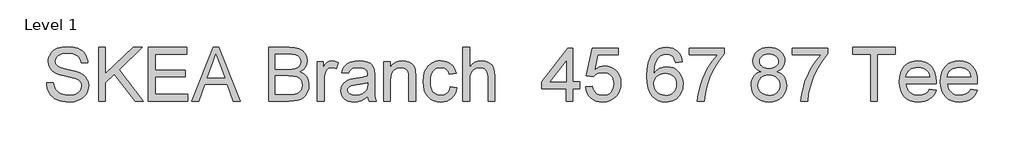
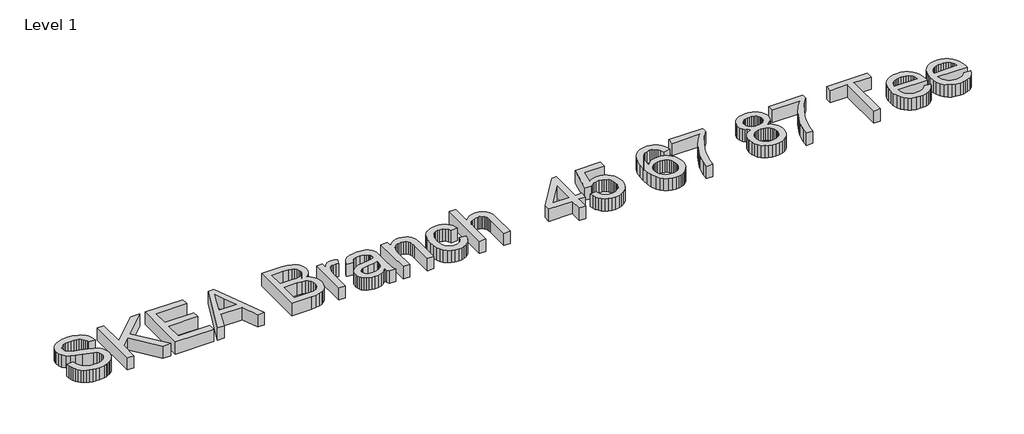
# One storey, part 12 of 29: 1 proxy.
"""IFC4 building model written with IfcOpenShell, lengths in millimetres."""

import ifcopenshell
import ifcopenshell.guid

model = None  # the IFC model being written
_history = None  # IfcOwnerHistory: only IFC2X3 demands one
_inside = {}  # id of a spatial element -> (the spatial element, [elements in it])
_under = {}  # id of a project, library or spatial element -> (it, [spatial elements below it])
_declared = {}  # id of a project -> (the project, [libraries it declares])
_typed = {}  # id of a type object -> (the type object, [elements of that type])
_made_of = {}  # id of a material, layer set ... -> (it, [elements and type objects made of it])


def new_model(schema):
    """Start an empty IFC model of exactly this schema.

    Asked for "IFC4X3", IfcOpenShell would pick the latest addendum, in which some entities
    have other attributes; the version numbers below select the first issue.
    IFC2X3 requires an IfcOwnerHistory on every rooted entity: one is made here for all.
    """
    global model, _history
    if schema == "IFC4X3":
        model = ifcopenshell.file(schema_version=(4, 3, 0, 0))
    else:
        model = ifcopenshell.file(schema=schema)
    _inside.clear()
    _under.clear()
    _declared.clear()
    _typed.clear()
    _made_of.clear()
    _history = None
    if model.schema == "IFC2X3":
        org = make("IfcOrganization", Name="unknown")
        user = make(
            "IfcPersonAndOrganization",
            ThePerson=make("IfcPerson", FamilyName="unknown"),
            TheOrganization=org,
        )
        app = make(
            "IfcApplication",
            ApplicationDeveloper=org,
            Version="unknown",
            ApplicationFullName="unknown",
            ApplicationIdentifier="unknown",
        )
        _history = make(
            "IfcOwnerHistory",
            OwningUser=user,
            OwningApplication=app,
            ChangeAction="ADDED",
            CreationDate=0,
        )
    return model


def make(cls, **values):
    """One entity of the class cls with the attributes given. An attribute that is None is left unset."""
    return model.create_entity(
        cls, **{name: value for name, value in values.items() if value is not None}
    )


def rooted(cls, **values):
    """An entity with a GlobalId (a new one), such as an element, a storey or a relation."""
    return make(cls, GlobalId=ifcopenshell.guid.new(), OwnerHistory=_history, **values)


def si_unit(unit_type, name, prefix=None):
    """IfcSIUnit, for example si_unit("LENGTHUNIT", "METRE", prefix="MILLI")."""
    return make("IfcSIUnit", UnitType=unit_type, Prefix=prefix, Name=name)


def assignment(units):
    """IfcUnitAssignment: the units of a project."""
    return None if units is None else make("IfcUnitAssignment", Units=units)


def point(xyz):
    """IfcCartesianPoint."""
    return None if xyz is None else make("IfcCartesianPoint", Coordinates=xyz)


def direction(xyz):
    """IfcDirection."""
    return None if xyz is None else make("IfcDirection", DirectionRatios=xyz)


def frame(location, z_axis=None, x_axis=None):
    """IfcAxis2Placement3D, a coordinate frame: its origin and axes. An axis left out is left unset."""
    return make(
        "IfcAxis2Placement3D",
        Location=point(location),
        Axis=direction(z_axis),
        RefDirection=direction(x_axis),
    )


def origin():
    """The frame at (0, 0, 0) with its axes left unset."""
    return frame((0.0, 0.0, 0.0))


def origin_with_axes():
    """The frame at (0, 0, 0) with the z axis (0, 0, 1) and the x axis (1, 0, 0) written out."""
    return frame((0.0, 0.0, 0.0), z_axis=(0.0, 0.0, 1.0), x_axis=(1.0, 0.0, 0.0))


def place(relative_to, where):
    """IfcLocalPlacement: puts the frame where relative to a parent placement (None: the world)."""
    return make(
        "IfcLocalPlacement", PlacementRelTo=relative_to, RelativePlacement=where
    )


def context(
    kind, dimensions, precision=None, world=None, true_north=None, identifier=None
):
    """IfcGeometricRepresentationContext, for example the 3D "Model" context."""
    return make(
        "IfcGeometricRepresentationContext",
        ContextIdentifier=identifier,
        ContextType=kind,
        CoordinateSpaceDimension=dimensions,
        Precision=precision,
        WorldCoordinateSystem=world,
        TrueNorth=true_north,
    )


def project(units=None, contexts=None):
    """IfcProject with its units and contexts."""
    return rooted(
        "IfcProject",
        Name="project",
        RepresentationContexts=contexts,
        UnitsInContext=assignment(units),
    )


def spatial(cls, under=None, at=None, **own):
    """A site, building, storey or space (cls), placed at a placement, below another one or the project."""
    s = rooted(cls, ObjectPlacement=at, **own)
    if under is not None:
        _under.setdefault(under.id(), (under, []))[1].append(s)
    return s


def polyline(points):
    """IfcPolyline through the points."""
    return make("IfcPolyline", Points=[point(p) for p in points])


def outline(outer, holes=None, kind="AREA"):
    """IfcArbitraryClosedProfileDef: a profile drawn as a closed curve; with holes, ...WithVoids."""
    if holes is None:
        return make("IfcArbitraryClosedProfileDef", ProfileType=kind, OuterCurve=outer)
    return make(
        "IfcArbitraryProfileDefWithVoids",
        ProfileType=kind,
        OuterCurve=outer,
        InnerCurves=holes,
    )


def extrude(swept, where, along, depth):
    """IfcExtrudedAreaSolid: the profile swept, set in the frame where, extruded along a direction by depth."""
    return make(
        "IfcExtrudedAreaSolid",
        SweptArea=swept,
        Position=where,
        ExtrudedDirection=direction(along),
        Depth=depth,
    )


def shape(context_of_items, identifier, shape_type, items):
    """IfcShapeRepresentation: the items that make up one representation, for example the "Body"."""
    return make(
        "IfcShapeRepresentation",
        ContextOfItems=context_of_items,
        RepresentationIdentifier=identifier,
        RepresentationType=shape_type,
        Items=items,
    )


def made_of(thing, what):
    """Note that an element or type object is made of a material, layer set ...; save() writes the relation."""
    if what is not None:
        _made_of.setdefault(what.id(), (what, []))[1].append(thing)
    return thing


def element(
    cls,
    number,
    at=None,
    inside=None,
    cuts=None,
    type_object=None,
    material=None,
    context=None,
    identifier="Body",
    shape_type=None,
    held_by="IfcProductDefinitionShape",
    body=None,
    shapes=None,
    **own,
):
    """One element of the class cls, such as IfcWall. Its Tag is "e" and its number.

    at: its placement. inside: the storey or other place that contains it. cuts: it is an
    opening in that element (IfcRelVoidsElement). A single representation is given by context,
    identifier, shape_type and body (its items); several are given by shapes. held_by: the class
    of the entity that holds the representations. save() writes the other relations.
    """
    e = rooted(cls, Tag="e%d" % number, ObjectPlacement=at, **own)
    if body is not None:
        shapes = [shape(context, identifier, shape_type, body)]
    if shapes is not None:
        e.Representation = make(held_by, Representations=shapes)
    if inside is not None:
        _inside.setdefault(inside.id(), (inside, []))[1].append(e)
    if cuts is not None:
        rooted(
            "IfcRelVoidsElement", RelatingBuildingElement=cuts, RelatedOpeningElement=e
        )
    if type_object is not None:
        _typed.setdefault(type_object.id(), (type_object, []))[1].append(e)
    return made_of(e, material)


def aggregate(whole, parts):
    """IfcRelAggregates: a whole, such as a stair, and the parts it consists of."""
    return rooted("IfcRelAggregates", RelatingObject=whole, RelatedObjects=parts)


def save(model, path):
    """Write the relations noted so far, then the file.

    IfcRelAggregates (storeys below a building ...), IfcRelContainedInSpatialStructure (elements
    in a storey), IfcRelDefinesByType, IfcRelAssociatesMaterial and IfcRelDeclares: one each for
    every whole, place, type object, material and project.
    """
    for whole, parts in _under.values():
        aggregate(whole, parts)
    for where, things in _inside.values():
        rooted(
            "IfcRelContainedInSpatialStructure",
            RelatedElements=things,
            RelatingStructure=where,
        )
    for kind, things in _typed.values():
        rooted("IfcRelDefinesByType", RelatedObjects=things, RelatingType=kind)
    for what, things in _made_of.values():
        rooted("IfcRelAssociatesMaterial", RelatedObjects=things, RelatingMaterial=what)
    for by, libraries in _declared.values():
        rooted("IfcRelDeclares", RelatingContext=by, RelatedDefinitions=libraries)
    model.write(path)


model = new_model("IFC4")

# Units and contexts
model_context = context("Model", 3, world=origin())
ifc_project = project(units=[si_unit("LENGTHUNIT", "METRE", prefix="MILLI")], contexts=[model_context])

# Site, building, storey
site = spatial("IfcSite", under=ifc_project)
building = spatial("IfcBuilding", under=site)
storey = spatial("IfcBuildingStorey", under=building, Name="Level 1", Elevation=0.0)

# Proxy
placement = place(None, origin())
element("IfcBuildingElementProxy", 1, Name="600mm Arial", ObjectType="600mm Arial", at=placement, inside=storey, context=model_context, shape_type="SweptSolid", body=[
    extrude(outline(polyline([(-4346.9599031, -9856.1960162), (-4271.6176705, -9856.1960162), (-4262.9724436, -9898.0058049), (-4247.3374588, -9931.6118252), (-4222.9468826, -9958.2832698), (-4188.0348812, -9979.2893318), (-4145.3605698, -9992.9193597), (-4097.6830632, -9997.4627023), (-4055.7077276, -9994.0230057), (-4018.9563162, -9983.7039157), (-3989.1762687, -9967.3699551), (-3968.1150245, -9945.8856466), (-3955.5886426, -9921.2191588), (-3951.4131819, -9895.3386605), (-3954.5401789, -9870.1203497), (-3963.9211698, -9848.3233415), (-3982.9774571, -9829.7269066), (-4015.1303435, -9814.1103159), (-4124.8327544, -9785.3419439), (-4196.845655, -9766.3040507), (-4242.9228749, -9748.1858624), (-4280.4284443, -9722.8387929), (-4307.0079185, -9692.1206463), (-4322.8452384, -9656.6936102), (-4328.124345, -9617.2198721), (-4326.4918686, -9594.7836689), (-4321.5944396, -9573.0924268), (-4313.4320578, -9552.1461457), (-4302.0047233, -9531.9448256), (-4287.4411948, -9513.3116026), (-4269.870231, -9497.0696125), (-4249.2918319, -9483.2188554), (-4225.7059975, -9471.7593312), (-4172.694202, -9456.3634697), (-4114.0170238, -9451.2315159), (-4050.447015, -9456.602593), (-3994.8232574, -9472.7158244), (-3970.4878634, -9484.7179745), (-3949.1323136, -9499.2401163), (-3930.7566079, -9516.2822497), (-3915.3607464, -9535.8443748), (-3903.0642907, -9557.3562744), (-3893.9868025, -9580.2477316), (-3888.1282817, -9604.5187462), (-3885.4887284, -9630.1693183), (-3960.830961, -9630.1693183), (-3965.8709443, -9606.12823), (-3974.663324, -9585.2141385), (-3987.2081001, -9567.4270441), (-4003.5052724, -9552.7669466), (-4023.8583438, -9541.3074224), (-4048.5708168, -9533.122048), (-4077.6426915, -9528.2108234), (-4111.0739678, -9526.5737485), (-4145.5721019, -9528.1924293), (-4175.0486468, -9533.0484716), (-4199.5036024, -9541.1418755), (-4218.9369688, -9552.472641), (-4233.7442191, -9566.0934718), (-4244.3208265, -9581.057072), (-4250.6667909, -9597.3634414), (-4252.7821124, -9615.0125801), (-4251.2829932, -9630.1969095), (-4246.7856358, -9643.9648932), (-4239.2900402, -9656.3165312), (-4228.7962063, -9667.2518235), (-4212.2783047, -9677.6077016), (-4186.2690476, -9688.0739444), (-4105.7764671, -9709.3375237), (-4022.7087126, -9729.5342452), (-3972.456032, -9747.1557928), (-3929.5058091, -9774.4894251), (-3912.9005356, -9790.5566712), (-3899.5418206, -9808.224204), (-3889.2733144, -9827.400053), (-3881.9386671, -9847.9922477), (-3876.0709493, -9893.4256741), (-3877.758608, -9916.9931144), (-3882.8215839, -9939.870776), (-3891.2598772, -9962.0586588), (-3903.0734878, -9983.5567629), (-3918.055482, -10003.5327552), (-3935.9989263, -10021.1543028), (-3956.9038207, -10036.4214056), (-3980.7701651, -10049.3340636), (-4006.9035824, -10059.6025698), (-4034.6096951, -10066.9372171), (-4094.7400072, -10072.8049349), (-4133.2802448, -10071.2230424), (-4168.5555296, -10066.4773646), (-4200.5658617, -10058.5679017), (-4229.3112411, -10047.4946537), (-4254.9664117, -10033.2392264), (-4277.7061175, -10015.7832257), (-4297.5303586, -9995.1266517), (-4314.4391348, -9971.2695043), (-4328.0599656, -9944.9843357), (-4338.0203707, -9917.0436982), (-4344.3203498, -9887.4475917), (-4346.9599031, -9856.1960162)])), origin_with_axes(), (0.0, 0.0, 1.0), 150.0),
    extrude(outline(polyline([(-3763.0576004, -10063.3871559), (-3763.0576004, -9460.649295), (-3687.7153678, -9460.649295), (-3687.7153678, -9755.6906551), (-3378.6944918, -9460.649295), (-3273.3330884, -9460.649295), (-3532.7634714, -9708.4546069), (-3263.9153093, -10063.3871559), (-3356.0329609, -10063.3871559), (-3586.1799371, -9759.369475), (-3687.7153678, -9856.1960162), (-3687.7153678, -10063.3871559), (-3763.0576004, -10063.3871559)])), origin_with_axes(), (0.0, 0.0, 1.0), 150.0),
    extrude(outline(polyline([(-3207.4086349, -10063.3871559), (-3207.4086349, -9460.649295), (-2774.1907974, -9460.649295), (-2774.1907974, -9535.9915276), (-3132.0664023, -9535.9915276), (-3132.0664023, -9714.92933), (-2793.0263555, -9714.92933), (-2793.0263555, -9790.2715626), (-3132.0664023, -9790.2715626), (-3132.0664023, -9988.0449233), (-2764.7730183, -9988.0449233), (-2764.7730183, -10063.3871559), (-3207.4086349, -10063.3871559)])), origin_with_axes(), (0.0, 0.0, 1.0), 150.0),
    extrude(outline(polyline([(-2721.951554, -10063.3871559), (-2481.3567292, -9460.649295), (-2417.1981092, -9460.649295), (-2176.6032844, -10063.3871559), (-2256.2129481, -10063.3871559), (-2325.2276104, -9875.0315743), (-2573.4743808, -9875.0315743), (-2642.3418903, -10063.3871559), (-2721.951554, -10063.3871559)]), holes=[polyline([(-2545.8096548, -9799.6893417), (-2352.7451837, -9799.6893417), (-2407.0445662, -9651.5064741), (-2449.2774192, -9535.9915276), (-2486.8013827, -9638.5570278), (-2545.8096548, -9799.6893417)])]), origin_with_axes(), (0.0, 0.0, 1.0), 150.0),
    extrude(outline(polyline([(-1860.6662269, -10063.3871559), (-1860.6662269, -9460.649295), (-1630.6664035, -9460.649295), (-1567.4090945, -9465.082273), (-1518.0209366, -9478.3812071), (-1497.9437767, -9488.4381812), (-1480.1658793, -9500.8771911), (-1464.6872444, -9515.698237), (-1451.5078719, -9532.9013188), (-1433.46326, -9570.5724351), (-1427.4483894, -9610.009385), (-1432.5067668, -9646.3009438), (-1447.6818991, -9680.4219989), (-1473.0841509, -9710.2756228), (-1508.8238867, -9733.7648882), (-1486.0841809, -9743.4585788), (-1466.1311812, -9756.0585371), (-1448.9648876, -9771.5647632), (-1434.5853001, -9789.977257), (-1423.222345, -9810.7349986), (-1415.1059485, -9833.2769679), (-1410.2361106, -9857.6031648), (-1408.6128313, -9883.7135894), (-1413.0458093, -9925.7441074), (-1426.3447434, -9964.7212048), (-1446.1919771, -9997.8673725), (-1470.2698537, -10022.4051016), (-1499.7555956, -10040.173802), (-1535.8264252, -10053.0128836), (-1579.6595649, -10060.7935878), (-1632.4322371, -10063.3871559), (-1860.6662269, -10063.3871559)]), holes=[polyline([(-1785.3239943, -9705.511551), (-1647.7361281, -9705.511551), (-1599.6171632, -9703.8928702), (-1567.3907004, -9699.0368278), (-1539.2661218, -9687.8716093), (-1519.0510062, -9671.1513726), (-1506.8557181, -9649.1336352), (-1502.790622, -9622.0759144), (-1506.5798066, -9595.80914), (-1517.9473602, -9572.9268799), (-1536.3782482, -9555.066209), (-1561.3574357, -9543.8642023), (-1599.6907396, -9537.9596963), (-1658.1839768, -9535.9915276), (-1785.3239943, -9535.9915276), (-1785.3239943, -9705.511551)]), polyline([(-1785.3239943, -9988.0449233), (-1630.8135563, -9988.0449233), (-1574.8954931, -9985.1018673), (-1548.9414183, -9978.5719619), (-1527.5858685, -9968.6943303), (-1510.2218383, -9954.5492676), (-1496.2423225, -9935.2170687), (-1487.0268785, -9911.5622565), (-1483.9550639, -9884.4493534), (-1487.5603074, -9852.9586546), (-1498.3760381, -9825.8825398), (-1517.2667785, -9804.710931), (-1545.0970515, -9790.9337502), (-1584.5156073, -9783.3737752), (-1638.1711963, -9780.8537836), (-1785.3239943, -9780.8537836), (-1785.3239943, -9988.0449233)])]), origin_with_axes(), (0.0, 0.0, 1.0), 150.0),
    extrude(outline(polyline([(-1314.4350405, -10063.3871559), (-1314.4350405, -9620.7515393), (-1248.510587, -9620.7515393), (-1248.510587, -9686.2345344), (-1224.1567989, -9648.2691125), (-1201.7159972, -9625.9018872), (-1179.2016191, -9614.9757919), (-1154.6271018, -9611.3337602), (-1117.1031383, -9617.1462957), (-1078.9905636, -9634.5839023), (-1104.1536921, -9702.1270366), (-1130.6411957, -9690.5387538), (-1157.1286994, -9686.6759928), (-1179.6246834, -9690.391601), (-1199.7294344, -9701.5384254), (-1215.9714245, -9719.2703376), (-1226.8791256, -9742.7412089), (-1236.0393873, -9784.8269091), (-1239.0928079, -9830.7385821), (-1239.0928079, -10063.3871559), (-1314.4350405, -10063.3871559)])), origin_with_axes(), (0.0, 0.0, 1.0), 150.0),
    extrude(outline(polyline([(-749.3682959, -10006.8804814), (-785.3655491, -10037.7457808), (-822.4296601, -10057.9425023), (-861.4067575, -10069.0893268), (-903.1429699, -10072.8049349), (-936.6892093, -10070.5700518), (-966.1059734, -10063.8654025), (-991.393262, -10052.6909869), (-1012.5510753, -10037.046805), (-1029.2575164, -10017.9261383), (-1041.1906886, -9996.3222681), (-1048.3505919, -9972.2351945), (-1050.7372264, -9945.6649174), (-1047.1319828, -9914.431736), (-1036.3162521, -9886.0680342), (-1019.6328037, -9861.7878225), (-998.4244066, -9842.8051116), (-973.5004015, -9828.4577137), (-945.6701285, -9818.0834415), (-880.481439, -9806.752676), (-803.4469492, -9794.8332994), (-749.8097543, -9780.8537836), (-749.3682959, -9764.0783646), (-754.555432, -9730.4539502), (-761.0393522, -9718.0011447), (-770.1168404, -9708.4546069), (-785.8070075, -9698.9264632), (-804.9184772, -9692.1206463), (-853.4053241, -9686.6759928), (-898.2869276, -9690.2996305), (-929.6304735, -9701.1705434), (-951.0044175, -9721.2752944), (-965.9772147, -9752.6004463), (-1041.3194473, -9743.1826673), (-1028.2412423, -9701.9798838), (-1008.7251025, -9669.6062682), (-980.9500119, -9644.84781), (-943.0949546, -9626.4904984), (-896.7970055, -9615.1229447), (-843.6932395, -9611.3337602), (-792.7599772, -9614.6814863), (-752.3849283, -9624.7246648), (-721.9426932, -9639.8262207), (-700.8078725, -9658.3490792), (-686.7915685, -9681.2497334), (-677.7048832, -9709.4846765), (-674.0260633, -9775.40913), (-674.0260633, -9869.1454624), (-670.2000905, -10000.0378763), (-664.5347078, -10032.3930978), (-655.1905051, -10063.3871559), (-730.5327377, -10063.3871559), (-742.5992672, -10037.1939578), (-749.3682959, -10006.8804814)]), holes=[polyline([(-749.3682959, -9856.1960162), (-799.9888584, -9868.7407922), (-870.9165071, -9879.2990055), (-935.7373147, -9891.5126877), (-952.6047041, -9899.863609), (-965.0942979, -9911.3783155), (-972.8198198, -9925.1738903), (-975.3949937, -9940.3674167), (-969.7847933, -9962.7714302), (-952.954192, -9981.1287417), (-925.2710719, -9993.3792122), (-887.1033149, -9997.4627023), (-846.6362954, -9992.9561479), (-810.8781655, -9979.4364846), (-781.8890643, -9959.5156745), (-761.7291309, -9935.8056799), (-752.7895985, -9911.3783155), (-749.8097543, -9877.5331719), (-749.3682959, -9856.1960162)])]), origin_with_axes(), (0.0, 0.0, 1.0), 150.0),
    extrude(outline(polyline([(-570.4304934, -10063.3871559), (-570.4304934, -9620.7515393), (-495.0882608, -9620.7515393), (-495.0882608, -9682.5557145), (-468.9134569, -9651.3961095), (-437.4779404, -9629.1392488), (-400.7817114, -9615.7851323), (-358.8247698, -9611.3337602), (-321.6870824, -9614.9206096), (-287.676392, -9625.681158), (-259.3126901, -9642.272636), (-239.1159686, -9663.3522743), (-225.4123643, -9688.8648907), (-216.5280141, -9718.7553028), (-212.5548885, -9791.5959378), (-212.5548885, -10063.3871559), (-287.8971212, -10063.3871559), (-287.8971212, -9801.7494809), (-290.0676249, -9762.7907776), (-296.5791362, -9735.0892634), (-308.5904834, -9715.2420297), (-327.2604946, -9699.8461682), (-351.1912184, -9689.9685367), (-378.9847032, -9686.6759928), (-401.8623647, -9688.5245998), (-423.1121485, -9694.0704209), (-442.7340544, -9703.313456), (-460.7280825, -9716.2537052), (-475.7606605, -9734.3626964), (-486.4982162, -9759.1119577), (-492.9407497, -9790.5014889), (-495.0882608, -9828.5312901), (-495.0882608, -10063.3871559), (-570.4304934, -10063.3871559)])), origin_with_axes(), (0.0, 0.0, 1.0), 150.0),
    extrude(outline(polyline([(173.5740536, -9903.2849116), (248.9162862, -9912.7026906), (240.7217148, -9948.2538869), (227.9102243, -9979.7123961), (210.4818148, -10007.078218), (188.4364862, -10030.3513527), (162.7031406, -10048.9247949), (134.2106801, -10062.1915394), (102.9591046, -10070.1515861), (68.9484142, -10072.8049349), (26.6925685, -10069.1031224), (-11.1946785, -10057.9976846), (-44.7133268, -10039.4886218), (-73.8633764, -10013.5759337), (-97.4584078, -9980.7470642), (-114.3120017, -9941.4894568), (-124.4241581, -9895.8031115), (-127.7948769, -9843.6880283), (-122.0375236, -9776.6415347), (-114.8408321, -9746.4706126), (-104.765464, -9718.5345736), (-91.7424413, -9693.3944377), (-75.7027863, -9671.6112251), (-56.646499, -9653.1849357), (-34.5735793, -9638.1155694), (-10.4819071, -9626.3985279), (14.6306376, -9618.0292125), (40.7640548, -9613.0076233), (67.9183446, -9611.3337602), (101.3450224, -9613.6330227), (131.5803238, -9620.5308101), (158.624249, -9632.0271224), (182.4767979, -9648.1219597), (202.7333002, -9668.4474399), (218.9890859, -9692.6356811), (231.2441549, -9720.6866833), (239.4985071, -9752.6004463), (164.1562745, -9762.0182254), (150.4894584, -9729.1479691), (129.207485, -9705.5851274), (101.4875766, -9691.4032764), (68.5069558, -9686.6759928), (42.9069674, -9689.0028464), (19.8177737, -9695.9834073), (-0.7606254, -9707.6176754), (-18.8282299, -9723.9056507), (-33.5389112, -9745.2244123), (-44.0465407, -9771.9510393), (-50.3511183, -9804.0855316), (-52.4526442, -9841.6278892), (-50.3971036, -9879.7358653), (-44.2304816, -9912.2428381), (-33.9527784, -9939.1488076), (-19.5639939, -9960.4537736), (-1.8550743, -9976.6451799), (18.3830339, -9988.2104701), (41.1503309, -9995.1496443), (66.4468166, -9997.4627023), (105.4607022, -9991.686955), (122.3326902, -9984.4672708), (137.4480417, -9974.359713), (150.3836923, -9961.253917), (160.7165779, -9945.039518), (168.4466983, -9925.7165162), (173.5740536, -9903.2849116)])), origin_with_axes(), (0.0, 0.0, 1.0), 150.0),
    extrude(outline(polyline([(314.8407397, -10063.3871559), (314.8407397, -9460.649295), (390.1829724, -9460.649295), (390.1829724, -9682.2614089), (417.8568954, -9651.2305626), (448.933727, -9629.0656724), (483.413467, -9615.7667382), (521.2961154, -9611.3337602), (566.8031182, -9616.1714084), (605.9089743, -9630.6843531), (636.7006973, -9653.7321601), (657.2653009, -9684.1743952), (668.8535837, -9726.0025781), (672.7163447, -9783.2082283), (672.7163447, -10063.3871559), (597.374112, -10063.3871559), (597.374112, -9791.0073266), (595.8749929, -9765.5682867), (591.3776355, -9743.8448549), (583.8820399, -9725.8370312), (573.388206, -9711.5448157), (560.1444541, -9700.6647057), (544.3991047, -9692.8931985), (526.1521578, -9688.2302942), (505.4036132, -9686.6759928), (473.5634266, -9690.8698475), (443.6730145, -9703.4514118), (418.9145562, -9723.2066749), (402.470231, -9748.9216264), (393.254787, -9783.0978637), (390.1829724, -9828.2369845), (390.1829724, -10063.3871559), (314.8407397, -10063.3871559)])), origin_with_axes(), (0.0, 0.0, 1.0), 150.0),
    extrude(outline(polyline([(1473.2275662, -10063.3871559), (1473.2275662, -9922.1204697), (1200.1119729, -9922.1204697), (1200.1119729, -9846.7782371), (1492.0631243, -9470.067074), (1548.5697988, -9470.067074), (1548.5697988, -9846.7782371), (1623.9120314, -9846.7782371), (1623.9120314, -9922.1204697), (1548.5697988, -9922.1204697), (1548.5697988, -10063.3871559), (1473.2275662, -10063.3871559)]), holes=[polyline([(1473.2275662, -9846.7782371), (1473.2275662, -9613.9825106), (1292.8182357, -9846.7782371), (1473.2275662, -9846.7782371)])]), origin_with_axes(), (0.0, 0.0, 1.0), 150.0),
    extrude(outline(polyline([(1689.8364849, -9903.2849116), (1765.1787175, -9893.8671325), (1770.8073121, -9918.0875633), (1779.0110805, -9939.0982238), (1789.790023, -9956.8991138), (1803.1441394, -9971.4902335), (1819.0458387, -9982.8531886), (1837.4675296, -9990.9695851), (1858.4092122, -9995.839423), (1881.8708864, -9997.4627023), (1910.565682, -9995.2048266), (1935.8759633, -9988.4311993), (1957.8017302, -9977.1418206), (1976.3429828, -9961.3366904), (1991.0858537, -9941.7975579), (2001.6164758, -9919.3061725), (2007.9348491, -9893.862534), (2010.0409735, -9865.4666425), (2008.0682063, -9838.6296509), (2002.1499047, -9814.7725035), (1992.2860687, -9793.8952003), (1978.4766983, -9775.9977412), (1960.6758083, -9761.6411464), (1938.8374134, -9751.3864358), (1912.9615135, -9745.2336094), (1883.0481088, -9743.1826673), (1846.4990326, -9746.456817), (1816.9029261, -9756.2792663), (1793.2665079, -9771.3256399), (1774.5964966, -9790.2715626), (1699.254264, -9780.8537836), (1765.1787175, -9470.067074), (2057.1298689, -9470.067074), (2057.1298689, -9545.4093067), (1826.0999759, -9545.4093067), (1793.8735132, -9711.3976629), (1820.4621844, -9692.3413755), (1847.694649, -9678.7297417), (1875.5709072, -9670.5627614), (1904.0909589, -9667.8404346), (1940.7825894, -9671.215752), (1974.4851787, -9681.3417039), (2005.1987268, -9698.2182904), (2032.9232336, -9721.8455115), (2055.8744716, -9750.7794305), (2072.268213, -9783.5761103), (2082.1044578, -9820.2355512), (2085.3832061, -9860.7577529), (2082.4309531, -9899.7900326), (2073.5741941, -9936.0999855), (2058.812929, -9969.6876117), (2038.147158, -10000.5529111), (2006.8404002, -10032.1631715), (1970.309718, -10054.741929), (1928.5551116, -10068.2891834), (1881.5765808, -10072.8049349), (1842.6960524, -10069.9032657), (1807.5771175, -10061.198258), (1776.2197759, -10046.6899118), (1748.6240277, -10026.3782271), (1725.6635927, -10001.2748795), (1708.2121906, -9972.3915444), (1696.2698213, -9939.7282217), (1689.8364849, -9903.2849116)])), origin_with_axes(), (0.0, 0.0, 1.0), 150.0),
    extrude(outline(polyline([(2772.8810787, -9620.7515393), (2697.5388461, -9630.1693183), (2685.3987403, -9592.8292958), (2668.9912033, -9567.3350736), (2652.7951984, -9553.6222722), (2634.8149659, -9543.8274141), (2615.0505057, -9537.9504992), (2593.5018179, -9535.9915276), (2558.4794519, -9540.5532643), (2525.5172252, -9554.2384745), (2497.2087056, -9583.0620289), (2474.0873222, -9622.738102), (2465.0512207, -9648.0437848), (2458.4707315, -9678.8585004), (2452.6765901, -9757.0150303), (2482.898096, -9721.753541), (2519.1160784, -9696.9031123), (2559.3071864, -9682.1694384), (2601.448069, -9677.2582137), (2637.6476573, -9680.6151369), (2671.0513425, -9690.6859066), (2701.6591245, -9707.4705226), (2729.4710033, -9730.968985), (2752.5831896, -9759.7833423), (2769.0918942, -9792.5156428), (2778.9971169, -9829.1658866), (2782.2988578, -9869.7340736), (2780.7445564, -9897.2010631), (2776.0816521, -9923.6839682), (2768.3101449, -9949.182789), (2757.4300349, -9973.6975254), (2743.8275981, -9996.3130711), (2727.8891107, -10016.1143195), (2709.6145726, -10033.1012706), (2689.0039838, -10047.2739245), (2666.4988028, -10058.4437416), (2642.5404878, -10066.4221823), (2617.129039, -10071.2092468), (2590.2644563, -10072.8049349), (2545.3506632, -10068.574292), (2504.7870747, -10055.8823632), (2468.5736908, -10034.7291484), (2436.7105115, -10005.1146478), (2410.7334441, -9965.7880625), (2392.178396, -9915.4985938), (2381.0453671, -9854.2462416), (2377.3343575, -9782.031006), (2381.4546358, -9701.0693759), (2393.8154709, -9631.9719401), (2414.4168626, -9574.7386987), (2427.8077672, -9550.5711509), (2443.258811, -9529.3696517), (2474.5195836, -9499.3044956), (2510.7651572, -9477.8293841), (2551.9955318, -9464.9443173), (2598.2107074, -9460.649295), (2632.9111766, -9463.3072424), (2664.3191019, -9471.2810846), (2692.4344834, -9484.5708217), (2717.257321, -9503.1764536), (2738.1162302, -9526.472581), (2754.3398262, -9553.8338043), (2765.928109, -9585.2601238), (2772.8810787, -9620.7515393)]), holes=[polyline([(2452.6765901, -9868.5568512), (2457.0359918, -9901.9421423), (2470.1141967, -9933.8191172), (2490.4212828, -9961.2263258), (2516.4673281, -9981.2023181), (2547.9028446, -9993.3976063), (2584.3783444, -9997.4627023), (2610.5669439, -9995.3565779), (2634.097596, -9989.0382046), (2654.9703007, -9978.5075825), (2673.185058, -9963.7647116), (2687.9601187, -9945.4074), (2698.5137334, -9924.0334561), (2704.8459022, -9899.6428798), (2706.9566252, -9872.2356712), (2704.8734934, -9845.8999188), (2698.624098, -9822.5164195), (2688.208439, -9802.0851732), (2673.6265164, -9784.6061799), (2655.3565768, -9770.6036715), (2633.8768668, -9760.6018797), (2609.1873864, -9754.6008047), (2581.2881356, -9752.6004463), (2555.449024, -9754.6008047), (2531.6424604, -9760.6018797), (2509.8684448, -9770.6036715), (2490.1269772, -9784.6061799), (2473.7424329, -9801.855247), (2462.0391869, -9821.5967145), (2455.0172393, -9843.8305826), (2452.6765901, -9868.5568512)])]), origin_with_axes(), (0.0, 0.0, 1.0), 150.0),
    extrude(outline(polyline([(2848.2233113, -9545.4093067), (2848.2233113, -9470.067074), (3243.7700325, -9470.067074), (3243.7700325, -9530.9883324), (3187.3921168, -9602.3390454), (3131.566024, -9693.0771395), (3082.325019, -9794.9252699), (3062.4363986, -9846.9115943), (3045.7023663, -9899.6060916), (3027.749725, -9977.9281684), (3017.7433347, -10063.3871559), (2942.4011021, -10063.3871559), (2950.5496883, -9985.7272667), (2972.3466965, -9893.4256741), (2988.2162061, -9844.0605089), (3007.2035155, -9795.5874575), (3029.3086249, -9748.0065199), (3054.5315342, -9701.3176962), (3109.7874099, -9616.097832), (3168.4277999, -9545.4093067), (2848.2233113, -9545.4093067)])), origin_with_axes(), (0.0, 0.0, 1.0), 150.0),
    extrude(outline(polyline([(3654.9149504, -9731.4104434), (3614.5766896, -9711.5448157), (3598.9187122, -9698.9632514), (3586.2681701, -9684.6158536), (3569.5479334, -9651.1753803), (3563.9745211, -9611.7752186), (3567.0095476, -9581.0478749), (3576.114627, -9552.8773112), (3591.2897593, -9527.2635272), (3612.5349445, -9504.2065232), (3638.8293101, -9485.1502358), (3669.1519836, -9471.538602), (3703.5029649, -9463.3716217), (3741.882254, -9460.649295), (3780.4454842, -9463.4360011), (3815.0539829, -9471.7961194), (3845.7077501, -9485.72965), (3872.4067859, -9505.2365928), (3894.0382472, -9528.7442523), (3909.489291, -9554.6799329), (3918.7599173, -9583.0436348), (3921.8501261, -9613.8353578), (3916.3502902, -9651.9663266), (3899.8507827, -9684.8365828), (3887.4301669, -9699.0874116), (3872.1676626, -9711.599998), (3833.1169888, -9731.4104434), (3857.8800456, -9741.9456641), (3879.4885143, -9755.304379), (3897.9423949, -9771.4865883), (3913.2416874, -9790.4922918), (3925.248436, -9811.8984254), (3933.824685, -9835.2819248), (3938.9704344, -9860.6427898), (3940.6856842, -9887.9810206), (3937.2827758, -9925.5601664), (3927.0740504, -9960.0123152), (3910.0595081, -9991.3374671), (3886.2391489, -10019.535622), (3856.8637716, -10042.8409464), (3823.1841749, -10059.4876067), (3785.2003589, -10069.4756029), (3742.9123236, -10072.8049349), (3700.6242883, -10069.4618073), (3662.6404723, -10059.4324244), (3628.9608756, -10042.7167863), (3599.5854983, -10019.3148928), (3575.7651391, -9990.9190013), (3558.7505968, -9959.2213689), (3548.5418714, -9924.2219956), (3545.138963, -9885.9208814), (3546.9231907, -9857.3364504), (3552.2758737, -9831.1800405), (3561.1970121, -9807.4516518), (3573.6866058, -9786.1512843), (3589.4687434, -9767.665214), (3608.2675134, -9752.3797171), (3630.0829157, -9740.2947936), (3654.9149504, -9731.4104434)]), holes=[polyline([(3620.4811956, -9883.272131), (3623.6265867, -9912.0956853), (3633.0627598, -9939.9995347), (3650.4819723, -9964.3349287), (3677.5764813, -9982.4531169), (3710.0236732, -9993.710306), (3743.5009348, -9997.4627023), (3770.7425965, -9995.4899351), (3794.7836849, -9989.5716335), (3815.6241999, -9979.7077975), (3833.2641416, -9965.8984271), (3847.2988397, -9949.0448332), (3857.3236241, -9930.0483267), (3863.3384947, -9908.9089076), (3865.3434516, -9885.6265758), (3863.2741154, -9861.9717635), (3857.0661067, -9840.4506668), (3846.7194256, -9821.0632856), (3832.234072, -9803.8096201), (3814.1158838, -9789.6461633), (3792.8706985, -9779.5294084), (3768.4985164, -9773.4593555), (3740.9993372, -9771.4360045), (3714.1577472, -9773.4317643), (3690.433957, -9779.4190438), (3669.8279667, -9789.3978429), (3652.3397764, -9803.3681617), (3638.4016473, -9820.3367187), (3628.4458408, -9839.3102326), (3622.4723569, -9860.2887034), (3620.4811956, -9883.272131)]), polyline([(3639.3167538, -9613.9825106), (3640.9860183, -9631.2545702), (3645.993812, -9646.8711609), (3654.3401347, -9660.8322826), (3666.0249866, -9673.1379354), (3680.9012148, -9683.1811138), (3698.8216665, -9690.3548128), (3719.7863417, -9694.6590321), (3743.7952404, -9696.0937719), (3767.2109294, -9694.6682291), (3787.7203506, -9690.391601), (3805.3235041, -9683.2638873), (3820.0203898, -9673.2850882), (3831.6086726, -9661.2369528), (3839.8860175, -9647.9012305), (3844.8524245, -9633.2779212), (3846.5078934, -9617.3670249), (3844.7972422, -9600.8353278), (3839.6652883, -9585.673991), (3831.1120319, -9571.8830147), (3819.137473, -9559.4623989), (3804.1094935, -9549.1938927), (3786.3959754, -9541.8592454), (3765.9969188, -9537.458457), (3742.9123236, -9535.9915276), (3719.6483859, -9537.4262674), (3699.1527603, -9541.7304867), (3681.4254466, -9548.9041856), (3666.466445, -9558.9473641), (3654.5884551, -9570.9954994), (3646.1041766, -9584.1840689), (3641.0136095, -9598.5130727), (3639.3167538, -9613.9825106)])]), origin_with_axes(), (0.0, 0.0, 1.0), 150.0),
    extrude(outline(polyline([(4006.6101377, -9545.4093067), (4006.6101377, -9470.067074), (4402.156859, -9470.067074), (4402.156859, -9530.9883324), (4345.7789432, -9602.3390454), (4289.9528504, -9693.0771395), (4240.7118454, -9794.9252699), (4220.823225, -9846.9115943), (4204.0891928, -9899.6060916), (4186.1365514, -9977.9281684), (4176.1301611, -10063.3871559), (4100.7879285, -10063.3871559), (4108.9365147, -9985.7272667), (4130.7335229, -9893.4256741), (4146.6030325, -9844.0605089), (4165.590342, -9795.5874575), (4187.6954513, -9748.0065199), (4212.9183606, -9701.3176962), (4268.1742363, -9616.097832), (4326.8146263, -9545.4093067), (4006.6101377, -9545.4093067)])), origin_with_axes(), (0.0, 0.0, 1.0), 150.0),
    extrude(outline(polyline([(4882.4635919, -10063.3871559), (4882.4635919, -9535.9915276), (4684.6902313, -9535.9915276), (4684.6902313, -9460.649295), (5155.5791851, -9460.649295), (5155.5791851, -9535.9915276), (4957.8058245, -9535.9915276), (4957.8058245, -10063.3871559), (4882.4635919, -10063.3871559)])), origin_with_axes(), (0.0, 0.0, 1.0), 150.0),
    extrude(outline(polyline([(5540.8252104, -9931.5382488), (5614.6959151, -9940.9560279), (5603.3697481, -9970.5429373), (5588.0796527, -9996.6165737), (5568.8256288, -10019.1769371), (5545.6076764, -10038.2240274), (5518.6649187, -10053.3531744), (5488.2364792, -10064.1597081), (5454.3223578, -10070.6436282), (5416.9225545, -10072.8049349), (5370.1739499, -10069.0755312), (5328.520511, -10057.88732), (5291.9622377, -10039.2403014), (5260.4991301, -10013.1344753), (5235.1980459, -9980.2964087), (5217.1258429, -9941.4526686), (5206.2825211, -9896.6032548), (5202.6680805, -9845.7481675), (5206.3193093, -9793.1686334), (5217.2729957, -9746.824699), (5235.5291397, -9706.7163645), (5261.0877413, -9672.8436298), (5292.4680755, -9645.9330618), (5328.1894172, -9626.7112276), (5368.2517665, -9615.178127), (5412.6551233, -9611.3337602), (5455.6283389, -9615.16893), (5494.4904731, -9626.6744394), (5529.2415261, -9645.8502884), (5559.8814978, -9672.696477), (5584.8928749, -9706.4956353), (5602.7581443, -9746.5303934), (5613.477306, -9792.8007514), (5617.0503598, -9845.3067091), (5616.6089014, -9865.6137953), (5278.0103131, -9865.6137953), (5282.3743132, -9895.6789513), (5291.0517298, -9922.0101051), (5304.0425628, -9944.6072567), (5321.3468121, -9963.470406), (5342.0079847, -9978.3420356), (5365.0695872, -9988.9646282), (5390.5316198, -9995.3381838), (5418.3940824, -9997.4627023), (5458.4932199, -9993.526365), (5492.2647871, -9981.7173529), (5519.7087839, -9961.2999022), (5540.8252104, -9931.5382488)]), holes=[polyline([(5278.0103131, -9790.2715626), (5541.7081272, -9790.2715626), (5531.5177959, -9750.4667308), (5522.7530074, -9734.8133519), (5511.5418036, -9721.9926643), (5490.9955942, -9706.5416205), (5467.6166934, -9695.5051607), (5441.4051012, -9688.8832848), (5412.3608177, -9686.6759928), (5385.8687155, -9688.4372279), (5361.5747083, -9693.720933), (5339.4787959, -9702.5271083), (5319.5809785, -9714.8557536), (5302.8837345, -9730.136652), (5290.3895422, -9747.7995863), (5282.0984017, -9767.8445565), (5278.0103131, -9790.2715626)])]), origin_with_axes(), (0.0, 0.0, 1.0), 150.0),
    extrude(outline(polyline([(6002.2963852, -9931.5382488), (6076.1670898, -9940.9560279), (6064.8409229, -9970.5429373), (6049.5508275, -9996.6165737), (6030.2968035, -10019.1769371), (6007.0788511, -10038.2240274), (5980.1360935, -10053.3531744), (5949.707654, -10064.1597081), (5915.7935325, -10070.6436282), (5878.3937292, -10072.8049349), (5831.6451247, -10069.0755312), (5789.9916858, -10057.88732), (5753.4334125, -10039.2403014), (5721.9703049, -10013.1344753), (5696.6692206, -9980.2964087), (5678.5970176, -9941.4526686), (5667.7536958, -9896.6032548), (5664.1392552, -9845.7481675), (5667.790484, -9793.1686334), (5678.7441704, -9746.824699), (5697.0003144, -9706.7163645), (5722.558916, -9672.8436298), (5753.9392502, -9645.9330618), (5789.660592, -9626.7112276), (5829.7229412, -9615.178127), (5874.1262981, -9611.3337602), (5917.0995136, -9615.16893), (5955.9616479, -9626.6744394), (5990.7127009, -9645.8502884), (6021.3526725, -9672.696477), (6046.3640497, -9706.4956353), (6064.2293191, -9746.5303934), (6074.9484807, -9792.8007514), (6078.5215346, -9845.3067091), (6078.0800762, -9865.6137953), (5739.4814878, -9865.6137953), (5743.845488, -9895.6789513), (5752.5229046, -9922.0101051), (5765.5137375, -9944.6072567), (5782.8179869, -9963.470406), (5803.4791594, -9978.3420356), (5826.540762, -9988.9646282), (5852.0027946, -9995.3381838), (5879.8652572, -9997.4627023), (5919.9643947, -9993.526365), (5953.7359618, -9981.7173529), (5981.1799587, -9961.2999022), (6002.2963852, -9931.5382488)]), holes=[polyline([(5739.4814878, -9790.2715626), (6003.179302, -9790.2715626), (5992.9889707, -9750.4667308), (5984.2241822, -9734.8133519), (5973.0129784, -9721.9926643), (5952.4667689, -9706.5416205), (5929.0878681, -9695.5051607), (5902.876276, -9688.8832848), (5873.8319925, -9686.6759928), (5847.3398903, -9688.4372279), (5823.045883, -9693.720933), (5800.9499707, -9702.5271083), (5781.0521533, -9714.8557536), (5764.3549092, -9730.136652), (5751.860717, -9747.7995863), (5743.5695765, -9767.8445565), (5739.4814878, -9790.2715626)])]), origin_with_axes(), (0.0, 0.0, 1.0), 150.0),
])

save(model, "model.ifc")
